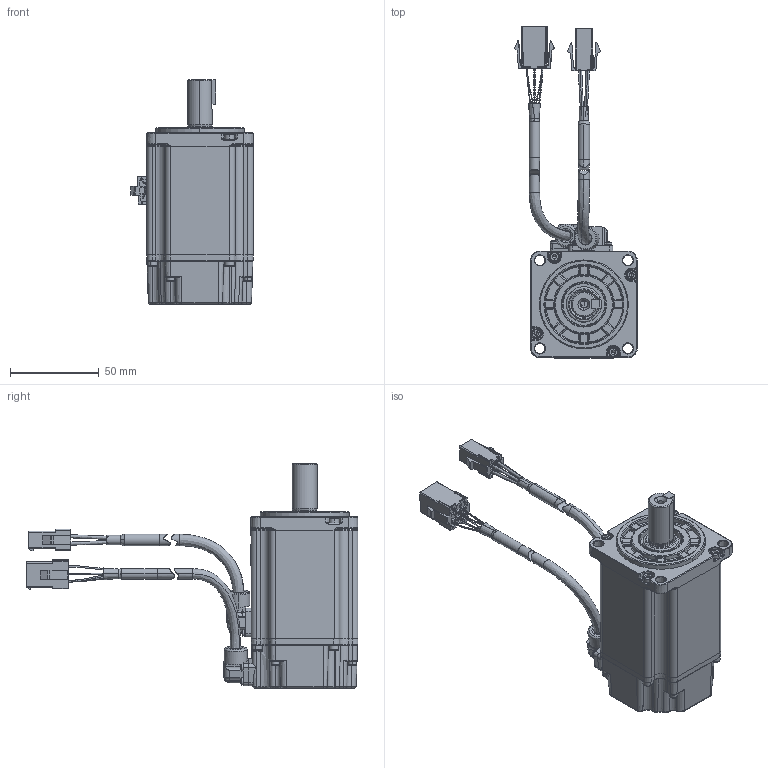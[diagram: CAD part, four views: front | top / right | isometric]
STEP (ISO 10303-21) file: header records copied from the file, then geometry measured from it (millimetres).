
FILE_DESCRIPTION (( 'STEP AP203' ), '1' );
FILE_NAME ('4030604-↓↓↓↓_60萇儂_DM1M-04A60[]8S_A1.STEP', '2020-05-19T08:48:14', ( '' ), ( '' ), 'SwSTEP 2.0', 'SolidWorks 2018', '' );
FILE_SCHEMA (( 'CONFIG_CONTROL_DESIGN' ));
Length unit declared in the file: millimetre
Products named in the file (1): 4030604-↓↓↓↓_60萇儂_DM1M-04A60[]8S_A1
Bounding box: 68.88 x 186.5 x 126.4 mm (x, y, z)
Surface area: 47157.1 mm2 (no closed solid volume)
Topology: 0 solids, 65 shells, 1366 faces, 4385 edges, 2973 vertices
Faces by surface type: plane 577, cylinder 318, cone 154, bspline 153, torus 131, sphere 33
Entity records: 53046 total; most frequent: CARTESIAN_POINT 15738, DIRECTION 7739, ORIENTED_EDGE 7198, EDGE_CURVE 4345, VERTEX_POINT 2973, AXIS2_PLACEMENT_3D 2664, LINE 2411, VECTOR 2411
